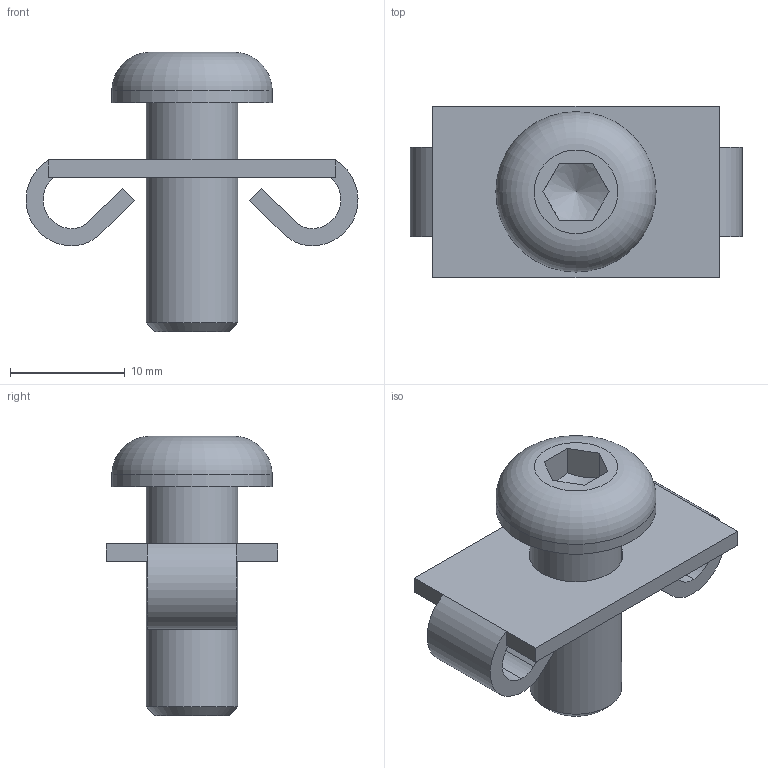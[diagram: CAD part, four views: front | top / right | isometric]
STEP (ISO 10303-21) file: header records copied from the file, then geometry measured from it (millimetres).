
FILE_DESCRIPTION((''),'2;1');
FILE_NAME('E:\catalogue and flyer\Profile catalogue 2015\Accessories JE info\Accessories-JE step file 31MAr16\JE-SJT8-8_3030.stp','2016-04-07T11:39:07',('h029'),(''),'Autodesk Inventor 11','Autodesk Inventor 11','');
FILE_SCHEMA(('AUTOMOTIVE_DESIGN { 1 0 10303 214 1 1 1 1 }'));
Length unit declared in the file: millimetre
Products named in the file (3): JE-SJT8-8_3030;  Part 6  Hexagon socket countersunk and button head screws - Metric series  - Metric M8 x 20
Assembly tree (2 placements, depth 2):
  JE-SJT8-8_3030
    JE-SJT8-8_3030
     Part 6  Hexagon socket countersunk and button head screws - Metric series  - Metric M8 x 20
Bounding box: 29 x 15 x 24.4 mm (x, y, z)
Volume: 2333 mm3; surface area: 2316.7 mm2
Topology: 2 solids, 2 shells, 41 faces, 102 edges, 66 vertices
Faces by surface type: plane 22, bspline 10, cylinder 6, cone 2, torus 1
Full cylindrical faces by diameter (mm): 8 x1, 14 x1
Entity records: 1310 total; most frequent: CARTESIAN_POINT 316, ORIENTED_EDGE 188, DIRECTION 184, EDGE_CURVE 94, VERTEX_POINT 64, VECTOR 64, LINE 64, AXIS2_PLACEMENT_3D 60
